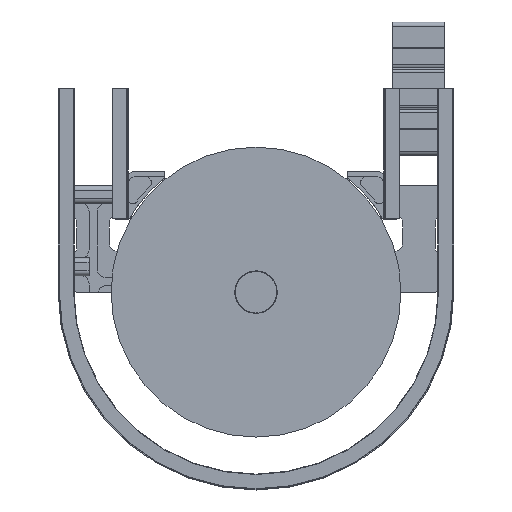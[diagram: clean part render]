
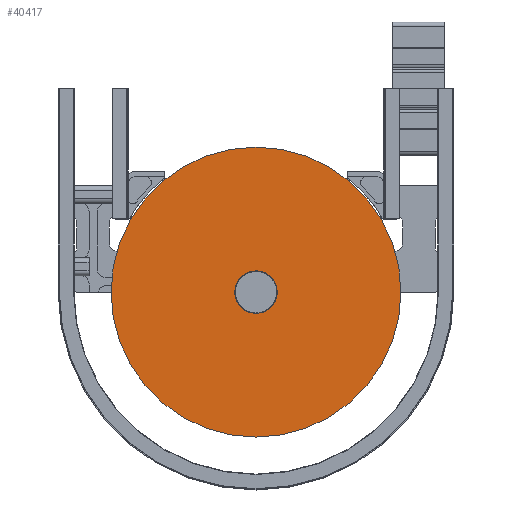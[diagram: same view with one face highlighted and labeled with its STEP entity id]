
A CAD part, front view. The second image highlights one B-rep face of the part: STEP entity #40417.
In plain terms, the highlighted planar face has unit normal (0, -1, 0).
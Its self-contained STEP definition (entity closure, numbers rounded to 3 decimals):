
#336 = CARTESIAN_POINT ( 'NONE',  ( -178., -88.7, 0. ) ) ;
#2932 = CARTESIAN_POINT ( 'NONE',  ( 0., -88.7, 0. ) ) ;
#2933 = DIRECTION ( 'NONE',  ( 0., -1., 0. ) ) ;
#2934 = DIRECTION ( 'NONE',  ( 1., 0., 0. ) ) ;
#2935 = CARTESIAN_POINT ( 'NONE',  ( 0., -88.7, 0. ) ) ;
#2936 = DIRECTION ( 'NONE',  ( 0., -1., 0. ) ) ;
#2937 = DIRECTION ( 'NONE',  ( 1., 0., 0. ) ) ;
#2938 = CARTESIAN_POINT ( 'NONE',  ( 0., -88.7, 0. ) ) ;
#2939 = DIRECTION ( 'NONE',  ( 0., -1., 0. ) ) ;
#2940 = DIRECTION ( 'NONE',  ( 1., 0., 0. ) ) ;
#2943 = CARTESIAN_POINT ( 'NONE',  ( 0., -88.7, 0. ) ) ;
#2944 = DIRECTION ( 'NONE',  ( 0., -1., 0. ) ) ;
#2945 = DIRECTION ( 'NONE',  ( 1., 0., 0. ) ) ;
#5389 = CIRCLE ( 'NONE', #9140, 26. ) ;
#5390 = CIRCLE ( 'NONE', #9142, 26. ) ;
#5392 = CIRCLE ( 'NONE', #9144, 178. ) ;
#5395 = CIRCLE ( 'NONE', #9146, 178. ) ;
#6825 = CARTESIAN_POINT ( 'NONE',  ( 178., -88.7, 0. ) ) ;
#7148 = FACE_OUTER_BOUND ( 'NONE', #28349, .T. ) ;
#7149 = FACE_BOUND ( 'NONE', #28350, .T. ) ;
#9140 = AXIS2_PLACEMENT_3D ( 'NONE', #2932, #2933, #2934 ) ;
#9142 = AXIS2_PLACEMENT_3D ( 'NONE', #2935, #2936, #2937 ) ;
#9144 = AXIS2_PLACEMENT_3D ( 'NONE', #2938, #2939, #2940 ) ;
#9146 = AXIS2_PLACEMENT_3D ( 'NONE', #2943, #2944, #2945 ) ;
#12247 = AXIS2_PLACEMENT_3D ( 'NONE', #16643, #16644, #16645 ) ;
#16642 = PLANE ( 'NONE',  #12247 ) ;
#16643 = CARTESIAN_POINT ( 'NONE',  ( 26., -88.7, 0. ) ) ;
#16644 = DIRECTION ( 'NONE',  ( 0., -1., 0. ) ) ;
#16645 = DIRECTION ( 'NONE',  ( 1., 0., 0. ) ) ;
#28349 = EDGE_LOOP ( 'NONE', ( #29481, #29480 ) ) ;
#28350 = EDGE_LOOP ( 'NONE', ( #29479, #29478 ) ) ;
#29478 = ORIENTED_EDGE ( 'NONE', *, *, #43531, .F. ) ;
#29479 = ORIENTED_EDGE ( 'NONE', *, *, #43532, .F. ) ;
#29480 = ORIENTED_EDGE ( 'NONE', *, *, #43533, .T. ) ;
#29481 = ORIENTED_EDGE ( 'NONE', *, *, #43535, .T. ) ;
#30767 = VERTEX_POINT ( 'NONE', #35397 ) ;
#30775 = VERTEX_POINT ( 'NONE', #35391 ) ;
#35391 = CARTESIAN_POINT ( 'NONE',  ( -26., -88.7, 0. ) ) ;
#35397 = CARTESIAN_POINT ( 'NONE',  ( 26., -88.7, 0. ) ) ;
#40417 = ADVANCED_FACE ( 'NONE', ( #7148, #7149 ), #16642, .T. ) ;
#43531 = EDGE_CURVE ( 'NONE', #30775, #30767, #5389, .T. ) ;
#43532 = EDGE_CURVE ( 'NONE', #30767, #30775, #5390, .T. ) ;
#43533 = EDGE_CURVE ( 'NONE', #44349, #43974, #5392, .T. ) ;
#43535 = EDGE_CURVE ( 'NONE', #43974, #44349, #5395, .T. ) ;
#43974 = VERTEX_POINT ( 'NONE', #6825 ) ;
#44349 = VERTEX_POINT ( 'NONE', #336 ) ;
